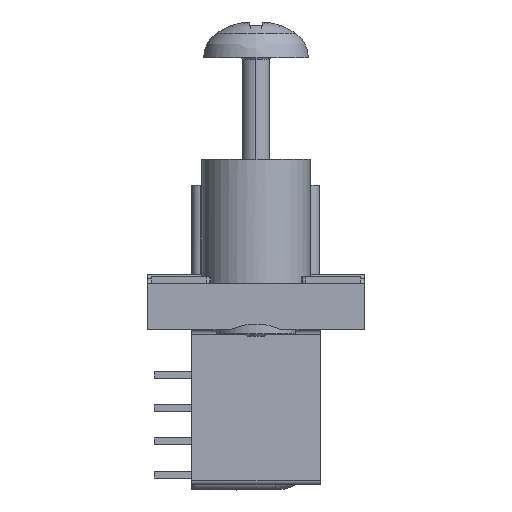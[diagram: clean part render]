
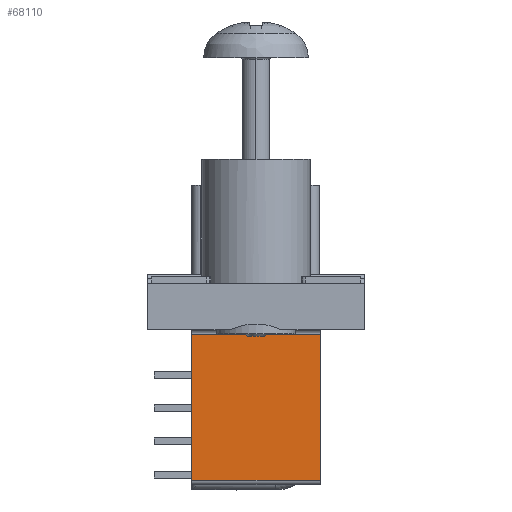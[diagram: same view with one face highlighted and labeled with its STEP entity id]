
A CAD part, front view. The second image highlights one B-rep face of the part: STEP entity #68110.
In plain terms, the highlighted planar face has unit normal (0, -1, 0).
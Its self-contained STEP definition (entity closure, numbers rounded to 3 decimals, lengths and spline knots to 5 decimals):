
#65747=DIRECTION('',(-1.,0.,0.));
#65748=VECTOR('',#65747,0.29);
#65749=CARTESIAN_POINT('',(0.29,0.148,-0.24));
#65750=LINE('',#65749,#65748);
#65751=DIRECTION('',(0.,0.,-1.));
#65752=VECTOR('',#65751,0.33);
#65753=CARTESIAN_POINT('',(0.,0.148,0.09));
#65754=LINE('',#65753,#65752);
#65755=DIRECTION('',(1.,0.,0.));
#65756=VECTOR('',#65755,0.29);
#65757=CARTESIAN_POINT('',(0.,0.148,0.09));
#65758=LINE('',#65757,#65756);
#65759=DIRECTION('',(0.,0.,-1.));
#65760=VECTOR('',#65759,0.33);
#65761=CARTESIAN_POINT('',(0.29,0.148,0.09));
#65762=LINE('',#65761,#65760);
#66057=CARTESIAN_POINT('',(0.,0.148,0.09));
#66058=CARTESIAN_POINT('',(0.29,0.148,0.09));
#66059=VERTEX_POINT('',#66057);
#66060=VERTEX_POINT('',#66058);
#66098=CARTESIAN_POINT('',(0.,0.148,-0.24));
#66100=VERTEX_POINT('',#66098);
#66101=CARTESIAN_POINT('',(0.29,0.148,-0.24));
#66102=VERTEX_POINT('',#66101);
#68097=CARTESIAN_POINT('',(-0.1,0.148,0.1));
#68098=DIRECTION('',(0.,-1.,0.));
#68099=DIRECTION('',(0.,0.,-1.));
#68100=AXIS2_PLACEMENT_3D('',#68097,#68098,#68099);
#68101=PLANE('',#68100);
#68102=ORIENTED_EDGE('',*,*,#68089,.T.);
#68103=ORIENTED_EDGE('',*,*,#68039,.F.);
#68105=ORIENTED_EDGE('',*,*,#68104,.T.);
#68107=ORIENTED_EDGE('',*,*,#68106,.T.);
#68108=EDGE_LOOP('',(#68102,#68103,#68105,#68107));
#68109=FACE_OUTER_BOUND('',#68108,.F.);
#68110=ADVANCED_FACE('',(#68109),#68101,.T.);
#68039=EDGE_CURVE('',#66059,#66100,#65754,.T.);
#68089=EDGE_CURVE('',#66102,#66100,#65750,.T.);
#68104=EDGE_CURVE('',#66059,#66060,#65758,.T.);
#68106=EDGE_CURVE('',#66060,#66102,#65762,.T.);
